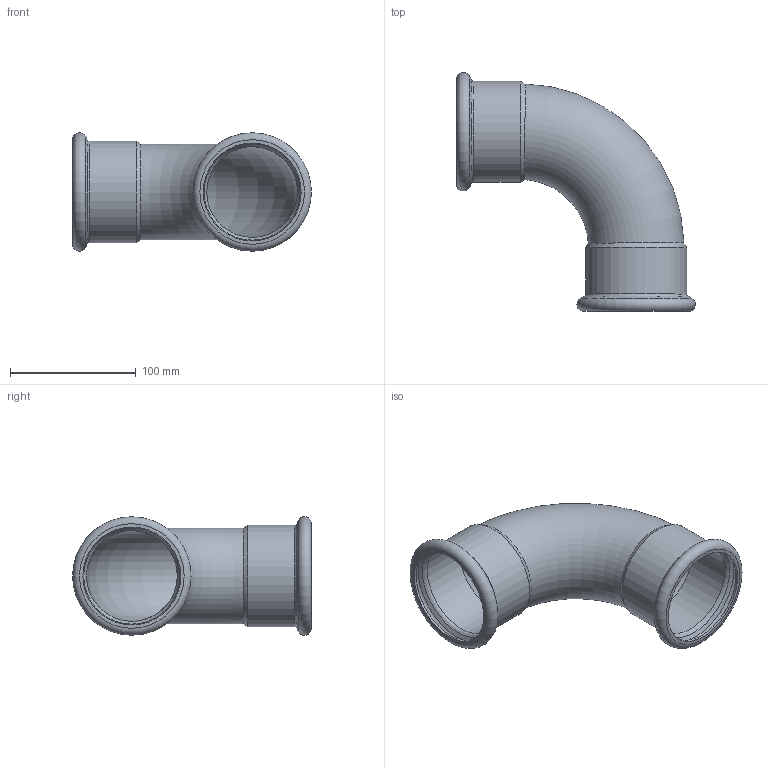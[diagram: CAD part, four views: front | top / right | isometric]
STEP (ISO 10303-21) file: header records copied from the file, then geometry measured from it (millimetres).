
FILE_DESCRIPTION((''),'2;1');
FILE_NAME('G:\Technics\CAD\Bauteile\076\69002A76(2a).stp','2008-03-10T11:07:41',('herberg'),(''),'Autodesk Inventor 2008','Autodesk Inventor 2008','');
FILE_SCHEMA(('AUTOMOTIVE_DESIGN { 1 0 10303 214 1 1 1 1 }'));
Length unit declared in the file: millimetre
Products named in the file (1): 69002A76(2a)
Bounding box: 190.14 x 190.15 x 94.3 mm (x, y, z)
Volume: 127620.7 mm3; surface area: 128611.8 mm2
Topology: 1 solids, 1 shells, 28 faces, 54 edges, 30 vertices
Faces by surface type: cone 8, torus 6, cylinder 6, plane 4, bspline 4
Full cylindrical faces by diameter (mm): 76.6 x2, 78 x2, 80.6 x2
Entity records: 882 total; most frequent: CARTESIAN_POINT 401, DIRECTION 98, ORIENTED_EDGE 56, EDGE_LOOP 56, AXIS2_PLACEMENT_3D 49, VERTEX_POINT 28, EDGE_CURVE 28, FACE_OUTER_BOUND 28
